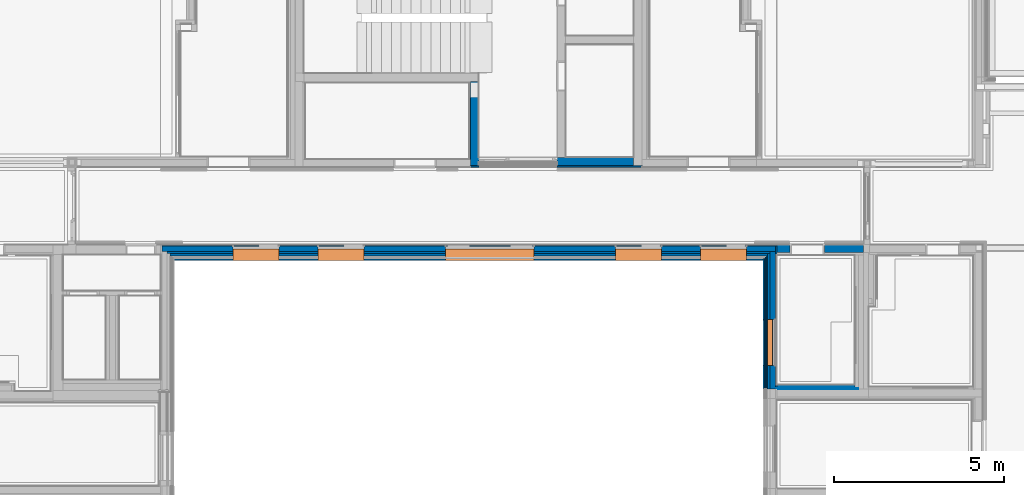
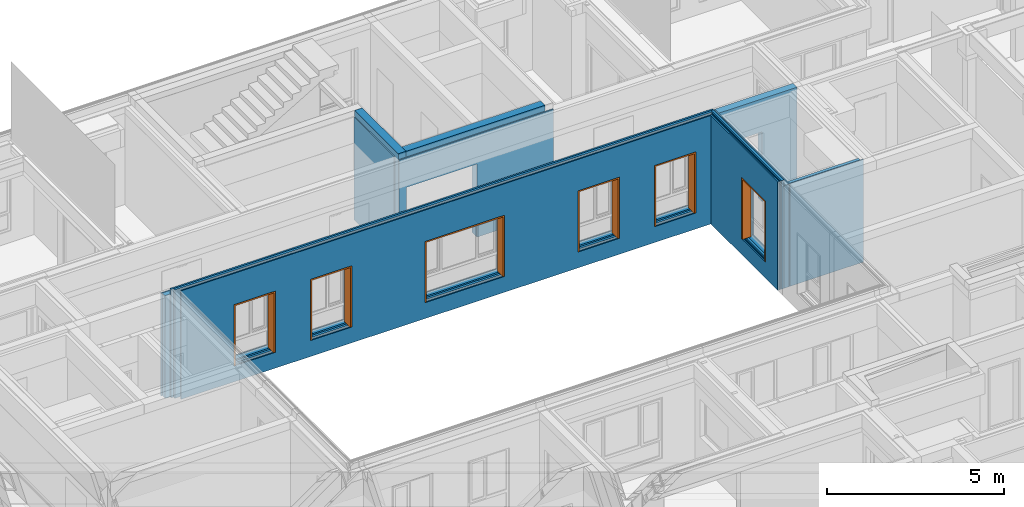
# One storey, part 33 of 222: 19 walls, 6 proxies, 37 openings.
"""IFC4 building model written with IfcOpenShell, lengths in metres."""

from ifc_helpers import new_model, entity, si_unit, converted_unit, derived_unit, frame, frame_2d, origin, origin_with_axes, place, context, subcontext, project, spatial, polyline, rectangle, outline, extrude, faceted_brep, material, element, fill, save


model = new_model("IFC4")

# Units and contexts
model_context = context("Model", 3, precision=1e-05, world=origin())
body_context = subcontext(model_context, "Body", "Model", "MODEL_VIEW")
ifc_project = project(units=[si_unit("LENGTHUNIT", "METRE"), si_unit("AREAUNIT", "SQUARE_METRE"), si_unit("VOLUMEUNIT", "CUBIC_METRE"), si_unit("MASSUNIT", "GRAM", prefix="KILO"), converted_unit("PLANEANGLEUNIT", "DEGREE", entity("IfcPlaneAngleMeasure", 0.0174532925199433), si_unit("PLANEANGLEUNIT", "RADIAN"), dimensions=[0, 0, 0, 0, 0, 0, 0]), derived_unit("THERMALTRANSMITTANCEUNIT", [(si_unit("POWERUNIT", "WATT"), 1), (si_unit("THERMODYNAMICTEMPERATUREUNIT", "KELVIN"), -1), (si_unit("LENGTHUNIT", "METRE"), -2)]), derived_unit("VOLUMETRICFLOWRATEUNIT", [(si_unit("LENGTHUNIT", "METRE"), 3), (converted_unit("TIMEUNIT", "hour", entity("IfcTimeMeasure", 3600.0), si_unit("TIMEUNIT", "SECOND"), dimensions=[0, 0, 1, 0, 0, 0, 0]), -1), (si_unit("LENGTHUNIT", "METRE"), -1)])], contexts=[model_context])

# Site, building, storey
site_placement = place(None, origin())
site = spatial("IfcSite", under=ifc_project, at=site_placement, Name="Psychiatrie Neubau Wunstorf", CompositionType="ELEMENT")
building_placement = place(site_placement, origin())
building = spatial("IfcBuilding", under=site, at=building_placement, Name="Neubau H2 Stationsgebäude", CompositionType="ELEMENT")
storey_placement = place(building_placement, frame((0.0, 0.0, 3.6)))
storey = spatial("IfcBuildingStorey", under=building, at=storey_placement, Name="H2 Ebene +1", CompositionType="ELEMENT", Elevation=3.6)

# Wall, opening
ifc_material_1 = material(Name="WA-LB")
wall_1_placement = place(storey_placement, frame((62.0610000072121, 16.336000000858, 0.0), z_axis=(0.0, 0.0, 1.0), x_axis=(1.72661628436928e-15, 1.0, 0.0)))
wall_1 = element("IfcWall", 1, at=wall_1_placement, inside=storey, material=ifc_material_1, context=body_context, shape_type="SweptSolid", body=[
    extrude(rectangle(XDim=4.2139980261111, YDim=0.036, at=frame_2d((2.10699901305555, 0.018), x_axis=(1.0, 0.0))), origin_with_axes(), (0.0, 0.0, 1.0), 3.55),
])
opening_1_placement = place(wall_1_placement, frame((2.0439980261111, 0.0360000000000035, 0.55), z_axis=(0.0, -1.0, 0.0), x_axis=(0.0, 0.0, 1.0)))
element("IfcOpeningElement", 2, at=opening_1_placement, cuts=wall_1, Name="Fensteröffnung", ObjectType="Opening", context=body_context, shape_type="SweptSolid", body=[
    extrude(outline(polyline([(2.115, 1.35), (2.115, 0.0), (0.0, 0.0), (0.0, 1.35), (2.115, 1.35)])), origin_with_axes(), (0.0, 0.0, 1.0), 0.036),
])

ifc_material_2 = material(Name="WA-DL")
wall_2_placement = place(storey_placement, frame((62.0250000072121, 16.336000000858, 0.0), z_axis=(0.0, 0.0, 1.0), x_axis=(1.7947610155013e-15, 1.0, 0.0)))
wall_2 = element("IfcWall", 3, at=wall_2_placement, inside=storey, material=ifc_material_2, context=body_context, shape_type="SweptSolid", body=[
    extrude(rectangle(XDim=4.05399802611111, YDim=0.16, at=frame_2d((2.02699901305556, 0.08), x_axis=(1.0, 0.0))), origin_with_axes(), (0.0, 0.0, 1.0), 3.55),
])
opening_2_placement = place(wall_2_placement, frame((2.0439980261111, 0.160000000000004, 0.55), z_axis=(1.4210854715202e-15, -1.0, 0.0), x_axis=(0.0, 0.0, 1.0)))
element("IfcOpeningElement", 4, at=opening_2_placement, cuts=wall_2, Name="Fensteröffnung", ObjectType="Opening", context=body_context, shape_type="SweptSolid", body=[
    extrude(outline(polyline([(2.115, 1.35), (2.115, 0.0), (0.0, 0.0), (0.0, 1.35), (2.115, 1.35)])), origin_with_axes(), (0.0, 0.0, 1.0), 0.16),
])

ifc_material_3 = material(Name="WA-DL")
wall_3_placement = place(storey_placement, frame((61.8650000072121, 16.336000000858, 0.0), z_axis=(0.0, 0.0, 1.0), x_axis=(1.82172288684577e-15, 1.0, 0.0)))
wall_3 = element("IfcWall", 5, at=wall_3_placement, inside=storey, material=ifc_material_3, context=body_context, shape_type="SweptSolid", body=[
    extrude(rectangle(XDim=3.99399802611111, YDim=0.08, at=frame_2d((1.99699901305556, 0.04), x_axis=(1.0, 0.0))), origin_with_axes(), (0.0, 0.0, 1.0), 3.75),
])
opening_3_placement = place(wall_3_placement, frame((2.0439980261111, 0.0800000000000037, 0.55), z_axis=(2.8421709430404e-15, -1.0, 0.0), x_axis=(0.0, 0.0, 1.0)))
element("IfcOpeningElement", 6, at=opening_3_placement, cuts=wall_3, Name="Fensteröffnung", ObjectType="Opening", context=body_context, shape_type="SweptSolid", body=[
    extrude(outline(polyline([(2.115, 1.35), (2.115, 0.0), (0.0, 0.0), (0.0, 1.35), (2.115, 1.35)])), origin_with_axes(), (0.0, 0.0, 1.0), 0.08),
])

ifc_material_4 = material(Name="WA-LB")
wall_4_placement = place(storey_placement, frame((61.7850000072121, 16.336000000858, 0.0), z_axis=(0.0, 0.0, 1.0), x_axis=(1.8589579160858e-15, 1.0, 0.0)))
wall_4 = element("IfcWall", 7, at=wall_4_placement, inside=storey, material=ifc_material_4, context=body_context, shape_type="SweptSolid", body=[
    extrude(rectangle(XDim=3.91399802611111, YDim=0.036, at=frame_2d((1.95699901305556, 0.018), x_axis=(1.0, 0.0))), origin_with_axes(), (0.0, 0.0, 1.0), 3.75),
])
opening_4_placement = place(wall_4_placement, frame((2.0439980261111, 0.0360000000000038, 0.55), z_axis=(0.0, -1.0, 0.0), x_axis=(0.0, 0.0, 1.0)))
element("IfcOpeningElement", 8, at=opening_4_placement, cuts=wall_4, Name="Fensteröffnung", ObjectType="Opening", context=body_context, shape_type="SweptSolid", body=[
    extrude(outline(polyline([(2.115, 1.35), (2.115, 0.0), (0.0, 0.0), (0.0, 1.35), (2.115, 1.35)])), origin_with_axes(), (0.0, 0.0, 1.0), 0.036),
])

ifc_material_5 = material(Name="WA-KL")
wall_5_placement = place(storey_placement, frame((61.7490000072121, 16.336000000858, 0.0), z_axis=(0.0, 0.0, 1.0), x_axis=(1.8762148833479e-15, 1.0, 0.0)))
wall_5 = element("IfcWall", 9, at=wall_5_placement, inside=storey, material=ifc_material_5, context=body_context, shape_type="SweptSolid", body=[
    extrude(rectangle(XDim=3.87799802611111, YDim=0.024, at=frame_2d((1.93899901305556, 0.012), x_axis=(1.0, 0.0))), origin_with_axes(), (0.0, 0.0, 1.0), 3.75),
])
opening_5_placement = place(wall_5_placement, frame((2.0439980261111, 0.0240000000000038, 0.55), z_axis=(0.0, -1.0, 0.0), x_axis=(0.0, 0.0, 1.0)))
element("IfcOpeningElement", 10, at=opening_5_placement, cuts=wall_5, Name="Fensteröffnung", ObjectType="Opening", context=body_context, shape_type="SweptSolid", body=[
    extrude(outline(polyline([(2.115, 1.35), (2.115, 0.0), (0.0, 0.0), (0.0, 1.35), (2.115, 1.35)])), origin_with_axes(), (0.0, 0.0, 1.0), 0.024),
])

ifc_material_6 = material(Name="WA-TL")
wall_6_placement = place(storey_placement, frame((61.7250000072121, 16.336000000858, 0.0), z_axis=(0.0, 0.0, 1.0), x_axis=(1.88789863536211e-15, 1.0, 0.0)))
wall_6 = element("IfcWall", 11, at=wall_6_placement, inside=storey, material=ifc_material_6, context=body_context, shape_type="SweptSolid", body=[
    extrude(rectangle(XDim=3.85399802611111, YDim=0.024, at=frame_2d((1.92699901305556, 0.012), x_axis=(1.0, 0.0))), origin_with_axes(), (0.0, 0.0, 1.0), 3.75),
])
opening_6_placement = place(wall_6_placement, frame((2.0439980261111, 0.0240000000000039, 0.55), z_axis=(0.0, -1.0, 0.0), x_axis=(0.0, 0.0, 1.0)))
element("IfcOpeningElement", 12, at=opening_6_placement, cuts=wall_6, Name="Fensteröffnung", ObjectType="Opening", context=body_context, shape_type="SweptSolid", body=[
    extrude(outline(polyline([(2.115, 1.35), (2.115, 0.0), (0.0, 0.0), (0.0, 1.35), (2.115, 1.35)])), origin_with_axes(), (0.0, 0.0, 1.0), 0.024),
])

# Wall, opening, proxy
ifc_material_7 = material(Name="WA-HS")
wall_7_placement = place(storey_placement, frame((61.7010000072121, 16.336000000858, 0.0), z_axis=(0.0, 0.0, 1.0), x_axis=(1.89972881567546e-15, 1.0, 0.0)))
wall_7 = element("IfcWall", 13, at=wall_7_placement, inside=storey, material=ifc_material_7, context=body_context, shape_type="SweptSolid", body=[
    extrude(rectangle(XDim=3.82999802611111, YDim=0.042, at=frame_2d((1.91499901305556, 0.021), x_axis=(1.0, 0.0))), origin_with_axes(), (0.0, 0.0, 1.0), 3.75),
])
opening_7_placement = place(wall_7_placement, frame((2.0439980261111, 0.0420000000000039, 0.55), z_axis=(0.0, -1.0, 0.0), x_axis=(0.0, 0.0, 1.0)))
opening_7 = element("IfcOpeningElement", 14, at=opening_7_placement, cuts=wall_7, Name="Fensteröffnung", ObjectType="Opening", context=body_context, shape_type="SweptSolid", body=[
    extrude(outline(polyline([(2.115, 1.35), (2.115, 0.0), (0.0, 0.0), (0.0, 1.35), (2.115, 1.35)])), origin_with_axes(), (0.0, 0.0, 1.0), 0.042),
])
ifc_material_8 = material(Name="WA-HS")
proxy_1_placement = place(opening_7_placement, frame((0.0, 1.35, 0.0)))
proxy_1 = element("IfcBuildingElementProxy", 15, at=proxy_1_placement, inside=storey, material=ifc_material_8, context=body_context, shape_type="Brep", body=[
    faceted_brep([(0.0, 0.0, 0.275), (0.0, 0.0, 0.0), (2.115, 0.0, 0.0), (2.115, 0.0, 0.275), (2.115, -1.35, 0.0), (2.115, -1.35, 0.274999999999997), (0.0, -0.05, 0.0), (0.0, -0.0500000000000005, 0.275), (0.0, -1.35, 0.274999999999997), (0.0, -1.3, 0.274999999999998), (2.065, -1.3, 0.274999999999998), (2.065, -0.0500000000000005, 0.275), (2.065, -0.05, 0.0), (2.065, -1.3, 0.0), (0.0, -1.3, 0.0), (0.0, -1.35, 0.0)], [[[0, 1, 2, 3]], [[2, 4, 5, 3]], [[6, 1, 0, 7]], [[7, 0, 3, 5, 8, 9, 10, 11]], [[1, 6, 12, 13, 14, 15, 4, 2]], [[6, 7, 11, 12]], [[15, 8, 5, 4]], [[15, 14, 9, 8]], [[9, 14, 13, 10]], [[10, 13, 12, 11]]], orient=[[False], [False], [False], [False], [False], [False], [False], [False], [False], [False]]),
])
fill(opening_7, proxy_1)

# Wall, openings
ifc_material_9 = material(Name="WA-LB")
wall_8_placement = place(storey_placement, frame((62.0610000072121, 20.5859980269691, 0.0), z_axis=(0.0, 0.0, 1.0), x_axis=(-1.0, 0.0, 0.0)))
wall_8 = element("IfcWall", 16, at=wall_8_placement, inside=storey, material=ifc_material_9, context=body_context, shape_type="SweptSolid", body=[
    extrude(rectangle(XDim=18.1220000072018, YDim=0.0359999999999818, at=frame_2d((9.06100000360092, 0.0179999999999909), x_axis=(1.0, 0.0))), origin_with_axes(), (0.0, 0.0, 1.0), 3.55),
])
opening_8_placement = place(wall_8_placement, frame((15.9884000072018, 0.0359999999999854, 0.55), z_axis=(0.0, -1.0, 0.0), x_axis=(0.0, 0.0, 1.0)))
element("IfcOpeningElement", 17, at=opening_8_placement, cuts=wall_8, Name="Fensteröffnung", ObjectType="Opening", context=body_context, shape_type="SweptSolid", body=[
    extrude(outline(polyline([(2.115, 1.35), (2.115, 0.0), (0.0, 0.0), (0.0, 1.35), (2.115, 1.35)])), origin_with_axes(), (0.0, 0.0, 1.0), 0.0359999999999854),
])
opening_9_placement = place(wall_8_placement, frame((13.4884000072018, 0.0359999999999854, 0.55), z_axis=(0.0, -1.0, 0.0), x_axis=(0.0, 0.0, 1.0)))
element("IfcOpeningElement", 18, at=opening_9_placement, cuts=wall_8, Name="Fensteröffnung", ObjectType="Opening", context=body_context, shape_type="SweptSolid", body=[
    extrude(outline(polyline([(2.115, 1.35), (2.115, 0.0), (0.0, 0.0), (0.0, 1.35), (2.115, 1.35)])), origin_with_axes(), (0.0, 0.0, 1.0), 0.0359999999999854),
])
opening_10_placement = place(wall_8_placement, frame((9.73840000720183, 0.0359999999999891, 0.55), z_axis=(0.0, -1.0, 0.0), x_axis=(0.0, 0.0, 1.0)))
element("IfcOpeningElement", 19, at=opening_10_placement, cuts=wall_8, Name="Fensteröffnung", ObjectType="Opening", context=body_context, shape_type="SweptSolid", body=[
    extrude(outline(polyline([(2.115, 2.6), (2.115, 0.0), (0.0, 0.0), (0.0, 2.6), (2.115, 2.6)])), origin_with_axes(), (0.0, 0.0, 1.0), 0.0359999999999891),
])
opening_11_placement = place(wall_8_placement, frame((4.73840000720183, 0.0359999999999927, 0.55), z_axis=(0.0, -1.0, 0.0), x_axis=(0.0, 0.0, 1.0)))
element("IfcOpeningElement", 20, at=opening_11_placement, cuts=wall_8, Name="Fensteröffnung", ObjectType="Opening", context=body_context, shape_type="SweptSolid", body=[
    extrude(outline(polyline([(2.115, 1.35), (2.115, 0.0), (0.0, 0.0), (0.0, 1.35), (2.115, 1.35)])), origin_with_axes(), (0.0, 0.0, 1.0), 0.0359999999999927),
])
opening_12_placement = place(wall_8_placement, frame((2.23840000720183, 0.0359999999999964, 0.55), z_axis=(0.0, -1.0, 0.0), x_axis=(0.0, 0.0, 1.0)))
element("IfcOpeningElement", 21, at=opening_12_placement, cuts=wall_8, Name="Fensteröffnung", ObjectType="Opening", context=body_context, shape_type="SweptSolid", body=[
    extrude(outline(polyline([(2.115, 1.35), (2.115, 0.0), (0.0, 0.0), (0.0, 1.35), (2.115, 1.35)])), origin_with_axes(), (0.0, 0.0, 1.0), 0.0359999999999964),
])

ifc_material_10 = material(Name="WA-DL")
wall_9_placement = place(storey_placement, frame((62.0250000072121, 20.5499980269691, 0.0), z_axis=(0.0, 0.0, 1.0), x_axis=(-1.0, 8.06200289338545e-16, 0.0)))
wall_9 = element("IfcWall", 22, at=wall_9_placement, inside=storey, material=ifc_material_10, context=body_context, shape_type="SweptSolid", body=[
    extrude(rectangle(XDim=18.0500000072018, YDim=0.16, at=frame_2d((9.02500000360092, 0.08), x_axis=(1.0, 0.0))), origin_with_axes(), (0.0, 0.0, 1.0), 3.55),
])
opening_13_placement = place(wall_9_placement, frame((15.9524000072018, 0.159999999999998, 0.55), z_axis=(0.0, -1.0, 0.0), x_axis=(0.0, 0.0, 1.0)))
element("IfcOpeningElement", 23, at=opening_13_placement, cuts=wall_9, Name="Fensteröffnung", ObjectType="Opening", context=body_context, shape_type="SweptSolid", body=[
    extrude(outline(polyline([(2.115, 1.35), (2.115, 0.0), (0.0, 0.0), (0.0, 1.35), (2.115, 1.35)])), origin_with_axes(), (0.0, 0.0, 1.0), 0.159999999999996),
])
opening_14_placement = place(wall_9_placement, frame((13.4524000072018, 0.159999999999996, 0.55), z_axis=(0.0, -1.0, 0.0), x_axis=(0.0, 0.0, 1.0)))
element("IfcOpeningElement", 24, at=opening_14_placement, cuts=wall_9, Name="Fensteröffnung", ObjectType="Opening", context=body_context, shape_type="SweptSolid", body=[
    extrude(outline(polyline([(2.115, 1.35), (2.115, 0.0), (0.0, 0.0), (0.0, 1.35), (2.115, 1.35)])), origin_with_axes(), (0.0, 0.0, 1.0), 0.159999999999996),
])
opening_15_placement = place(wall_9_placement, frame((4.70240000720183, 0.159999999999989, 0.55), z_axis=(0.0, -1.0, 0.0), x_axis=(0.0, 0.0, 1.0)))
element("IfcOpeningElement", 25, at=opening_15_placement, cuts=wall_9, Name="Fensteröffnung", ObjectType="Opening", context=body_context, shape_type="SweptSolid", body=[
    extrude(outline(polyline([(2.115, 1.35), (2.115, 0.0), (0.0, 0.0), (0.0, 1.35), (2.115, 1.35)])), origin_with_axes(), (0.0, 0.0, 1.0), 0.159999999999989),
])
opening_16_placement = place(wall_9_placement, frame((2.20240000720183, 0.159999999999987, 0.55), z_axis=(0.0, -1.0, 0.0), x_axis=(0.0, 0.0, 1.0)))
element("IfcOpeningElement", 26, at=opening_16_placement, cuts=wall_9, Name="Fensteröffnung", ObjectType="Opening", context=body_context, shape_type="SweptSolid", body=[
    extrude(outline(polyline([(2.115, 1.35), (2.115, 0.0), (0.0, 0.0), (0.0, 1.35), (2.115, 1.35)])), origin_with_axes(), (0.0, 0.0, 1.0), 0.159999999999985),
])
opening_17_placement = place(wall_9_placement, frame((9.70240000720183, 0.159999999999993, 0.55), z_axis=(0.0, -1.0, 0.0), x_axis=(0.0, 0.0, 1.0)))
element("IfcOpeningElement", 27, at=opening_17_placement, cuts=wall_9, Name="Fensteröffnung", ObjectType="Opening", context=body_context, shape_type="SweptSolid", body=[
    extrude(outline(polyline([(2.115, 2.6), (2.115, 0.0), (0.0, 0.0), (0.0, 2.6), (2.115, 2.6)])), origin_with_axes(), (0.0, 0.0, 1.0), 0.159999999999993),
])

ifc_material_11 = material(Name="WA-DL")
wall_10_placement = place(storey_placement, frame((61.8650000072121, 20.3899980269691, 0.0), z_axis=(0.0, 0.0, 1.0), x_axis=(-1.0, 0.0, 0.0)))
wall_10 = element("IfcWall", 28, at=wall_10_placement, inside=storey, material=ifc_material_11, context=body_context, shape_type="SweptSolid", body=[
    extrude(rectangle(XDim=17.7300000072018, YDim=0.06, at=frame_2d((8.86500000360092, 0.03), x_axis=(1.0, 0.0))), origin_with_axes(), (0.0, 0.0, 1.0), 3.75),
])
opening_18_placement = place(wall_10_placement, frame((15.7924000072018, 0.06, 0.55), z_axis=(0.0, -1.0, 0.0), x_axis=(0.0, 0.0, 1.0)))
element("IfcOpeningElement", 29, at=opening_18_placement, cuts=wall_10, Name="Fensteröffnung", ObjectType="Opening", context=body_context, shape_type="SweptSolid", body=[
    extrude(outline(polyline([(2.115, 1.35), (2.115, 0.0), (0.0, 0.0), (0.0, 1.35), (2.115, 1.35)])), origin_with_axes(), (0.0, 0.0, 1.0), 0.06),
])
opening_19_placement = place(wall_10_placement, frame((13.2924000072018, 0.06, 0.55), z_axis=(0.0, -1.0, 0.0), x_axis=(0.0, 0.0, 1.0)))
element("IfcOpeningElement", 30, at=opening_19_placement, cuts=wall_10, Name="Fensteröffnung", ObjectType="Opening", context=body_context, shape_type="SweptSolid", body=[
    extrude(outline(polyline([(2.115, 1.35), (2.115, 0.0), (0.0, 0.0), (0.0, 1.35), (2.115, 1.35)])), origin_with_axes(), (0.0, 0.0, 1.0), 0.06),
])
opening_20_placement = place(wall_10_placement, frame((4.54240000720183, 0.06, 0.55), z_axis=(0.0, -1.0, 0.0), x_axis=(0.0, 0.0, 1.0)))
element("IfcOpeningElement", 31, at=opening_20_placement, cuts=wall_10, Name="Fensteröffnung", ObjectType="Opening", context=body_context, shape_type="SweptSolid", body=[
    extrude(outline(polyline([(2.115, 1.35), (2.115, 0.0), (0.0, 0.0), (0.0, 1.35), (2.115, 1.35)])), origin_with_axes(), (0.0, 0.0, 1.0), 0.06),
])
opening_21_placement = place(wall_10_placement, frame((2.04240000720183, 0.06, 0.55), z_axis=(0.0, -1.0, 0.0), x_axis=(0.0, 0.0, 1.0)))
element("IfcOpeningElement", 32, at=opening_21_placement, cuts=wall_10, Name="Fensteröffnung", ObjectType="Opening", context=body_context, shape_type="SweptSolid", body=[
    extrude(outline(polyline([(2.115, 1.35), (2.115, 0.0), (0.0, 0.0), (0.0, 1.35), (2.115, 1.35)])), origin_with_axes(), (0.0, 0.0, 1.0), 0.06),
])
opening_22_placement = place(wall_10_placement, frame((9.54240000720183, 0.06, 0.55), z_axis=(0.0, -1.0, 0.0), x_axis=(0.0, 0.0, 1.0)))
element("IfcOpeningElement", 33, at=opening_22_placement, cuts=wall_10, Name="Fensteröffnung", ObjectType="Opening", context=body_context, shape_type="SweptSolid", body=[
    extrude(outline(polyline([(2.115, 2.6), (2.115, 0.0), (0.0, 0.0), (0.0, 2.6), (2.115, 2.6)])), origin_with_axes(), (0.0, 0.0, 1.0), 0.06),
])

ifc_material_12 = material(Name="WA-DL")
wall_11_placement = place(storey_placement, frame((61.7850000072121, 20.3299980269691, 0.0), z_axis=(0.0, 0.0, 1.0), x_axis=(-1.0, 0.0, 0.0)))
wall_11 = element("IfcWall", 34, at=wall_11_placement, inside=storey, material=ifc_material_12, context=body_context, shape_type="SweptSolid", body=[
    extrude(rectangle(XDim=17.5700000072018, YDim=0.08, at=frame_2d((8.78500000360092, 0.04), x_axis=(1.0, 0.0))), origin_with_axes(), (0.0, 0.0, 1.0), 3.75),
])
opening_23_placement = place(wall_11_placement, frame((15.7124000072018, 0.08, 0.55), z_axis=(0.0, -1.0, 0.0), x_axis=(0.0, 0.0, 1.0)))
element("IfcOpeningElement", 35, at=opening_23_placement, cuts=wall_11, Name="Fensteröffnung", ObjectType="Opening", context=body_context, shape_type="SweptSolid", body=[
    extrude(outline(polyline([(2.115, 1.35), (2.115, 0.0), (0.0, 0.0), (0.0, 1.35), (2.115, 1.35)])), origin_with_axes(), (0.0, 0.0, 1.0), 0.08),
])
opening_24_placement = place(wall_11_placement, frame((13.2124000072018, 0.08, 0.55), z_axis=(0.0, -1.0, 0.0), x_axis=(0.0, 0.0, 1.0)))
element("IfcOpeningElement", 36, at=opening_24_placement, cuts=wall_11, Name="Fensteröffnung", ObjectType="Opening", context=body_context, shape_type="SweptSolid", body=[
    extrude(outline(polyline([(2.115, 1.35), (2.115, 0.0), (0.0, 0.0), (0.0, 1.35), (2.115, 1.35)])), origin_with_axes(), (0.0, 0.0, 1.0), 0.08),
])
opening_25_placement = place(wall_11_placement, frame((4.46240000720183, 0.08, 0.55), z_axis=(0.0, -1.0, 0.0), x_axis=(0.0, 0.0, 1.0)))
element("IfcOpeningElement", 37, at=opening_25_placement, cuts=wall_11, Name="Fensteröffnung", ObjectType="Opening", context=body_context, shape_type="SweptSolid", body=[
    extrude(outline(polyline([(2.115, 1.35), (2.115, 0.0), (0.0, 0.0), (0.0, 1.35), (2.115, 1.35)])), origin_with_axes(), (0.0, 0.0, 1.0), 0.08),
])
opening_26_placement = place(wall_11_placement, frame((1.96240000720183, 0.08, 0.55), z_axis=(0.0, -1.0, 0.0), x_axis=(0.0, 0.0, 1.0)))
element("IfcOpeningElement", 38, at=opening_26_placement, cuts=wall_11, Name="Fensteröffnung", ObjectType="Opening", context=body_context, shape_type="SweptSolid", body=[
    extrude(outline(polyline([(2.115, 1.35), (2.115, 0.0), (0.0, 0.0), (0.0, 1.35), (2.115, 1.35)])), origin_with_axes(), (0.0, 0.0, 1.0), 0.08),
])
opening_27_placement = place(wall_11_placement, frame((9.46240000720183, 0.08, 0.55), z_axis=(0.0, -1.0, 0.0), x_axis=(0.0, 0.0, 1.0)))
element("IfcOpeningElement", 39, at=opening_27_placement, cuts=wall_11, Name="Fensteröffnung", ObjectType="Opening", context=body_context, shape_type="SweptSolid", body=[
    extrude(outline(polyline([(2.115, 2.6), (2.115, 0.0), (0.0, 0.0), (0.0, 2.6), (2.115, 2.6)])), origin_with_axes(), (0.0, 0.0, 1.0), 0.08),
])

# Wall, openings, proxies
ifc_material_13 = material(Name="WA-HS")
wall_12_placement = place(storey_placement, frame((61.6590000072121, 20.1659980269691, 0.0), z_axis=(0.0, 0.0, 1.0), x_axis=(-1.0, 0.0, 0.0)))
wall_12 = element("IfcWall", 40, at=wall_12_placement, inside=storey, material=ifc_material_13, context=body_context, shape_type="SweptSolid", body=[
    extrude(rectangle(XDim=17.3180000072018, YDim=0.042, at=frame_2d((8.65900000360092, 0.021), x_axis=(1.0, 0.0))), origin_with_axes(), (0.0, 0.0, 1.0), 3.75),
])
opening_28_placement = place(wall_12_placement, frame((15.5864000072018, 0.042, 0.55), z_axis=(0.0, -1.0, 0.0), x_axis=(0.0, 0.0, 1.0)))
opening_28 = element("IfcOpeningElement", 41, at=opening_28_placement, cuts=wall_12, Name="Fensteröffnung", ObjectType="Opening", context=body_context, shape_type="SweptSolid", body=[
    extrude(outline(polyline([(2.115, 1.35), (2.115, 0.0), (0.0, 0.0), (0.0, 1.35), (2.115, 1.35)])), origin_with_axes(), (0.0, 0.0, 1.0), 0.042),
])
opening_29_placement = place(wall_12_placement, frame((13.0864000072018, 0.042, 0.55), z_axis=(0.0, -1.0, 0.0), x_axis=(0.0, 0.0, 1.0)))
opening_29 = element("IfcOpeningElement", 42, at=opening_29_placement, cuts=wall_12, Name="Fensteröffnung", ObjectType="Opening", context=body_context, shape_type="SweptSolid", body=[
    extrude(outline(polyline([(2.115, 1.35), (2.115, 0.0), (0.0, 0.0), (0.0, 1.35), (2.115, 1.35)])), origin_with_axes(), (0.0, 0.0, 1.0), 0.042),
])
opening_30_placement = place(wall_12_placement, frame((4.33640000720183, 0.042, 0.55), z_axis=(0.0, -1.0, 0.0), x_axis=(0.0, 0.0, 1.0)))
opening_30 = element("IfcOpeningElement", 43, at=opening_30_placement, cuts=wall_12, Name="Fensteröffnung", ObjectType="Opening", context=body_context, shape_type="SweptSolid", body=[
    extrude(outline(polyline([(2.115, 1.35), (2.115, 0.0), (0.0, 0.0), (0.0, 1.35), (2.115, 1.35)])), origin_with_axes(), (0.0, 0.0, 1.0), 0.042),
])
opening_31_placement = place(wall_12_placement, frame((1.83640000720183, 0.042, 0.55), z_axis=(0.0, -1.0, 0.0), x_axis=(0.0, 0.0, 1.0)))
opening_31 = element("IfcOpeningElement", 44, at=opening_31_placement, cuts=wall_12, Name="Fensteröffnung", ObjectType="Opening", context=body_context, shape_type="SweptSolid", body=[
    extrude(outline(polyline([(2.115, 1.35), (2.115, 0.0), (0.0, 0.0), (0.0, 1.35), (2.115, 1.35)])), origin_with_axes(), (0.0, 0.0, 1.0), 0.042),
])
opening_32_placement = place(wall_12_placement, frame((9.33640000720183, 0.042, 0.55), z_axis=(0.0, -1.0, 0.0), x_axis=(0.0, 0.0, 1.0)))
opening_32 = element("IfcOpeningElement", 45, at=opening_32_placement, cuts=wall_12, Name="Fensteröffnung", ObjectType="Opening", context=body_context, shape_type="SweptSolid", body=[
    extrude(outline(polyline([(2.115, 2.6), (2.115, 0.0), (0.0, 0.0), (0.0, 2.6), (2.115, 2.6)])), origin_with_axes(), (0.0, 0.0, 1.0), 0.042),
])
ifc_material_14 = material(Name="WA-HS")
proxy_2_placement = place(opening_28_placement, origin())
proxy_2 = element("IfcBuildingElementProxy", 46, at=proxy_2_placement, inside=storey, material=ifc_material_14, context=body_context, shape_type="Brep", body=[
    faceted_brep([(0.0, 1.35, 0.335), (0.0, 1.35, 0.0), (2.115, 1.35, 0.0), (2.115, 1.35, 0.335), (2.115, 0.0, 0.0), (2.115, 0.0, 0.335), (0.0, 1.3, 0.0), (0.0, 1.3, 0.335), (0.0, 0.0, 0.335), (0.0, 0.05, 0.335), (2.065, 0.05, 0.335), (2.065, 1.3, 0.335), (2.065, 1.3, 0.0), (2.065, 0.05, 0.0), (0.0, 0.05, 0.0), (0.0, 0.0, 0.0)], [[[0, 1, 2, 3]], [[2, 4, 5, 3]], [[6, 1, 0, 7]], [[7, 0, 3, 5, 8, 9, 10, 11]], [[1, 6, 12, 13, 14, 15, 4, 2]], [[6, 7, 11, 12]], [[15, 8, 5, 4]], [[15, 14, 9, 8]], [[9, 14, 13, 10]], [[10, 13, 12, 11]]], orient=[[False], [False], [False], [False], [False], [False], [False], [False], [False], [False]]),
])
fill(opening_28, proxy_2)
ifc_material_15 = material(Name="WA-HS")
proxy_3_placement = place(opening_29_placement, origin())
proxy_3 = element("IfcBuildingElementProxy", 47, at=proxy_3_placement, inside=storey, material=ifc_material_15, context=body_context, shape_type="Brep", body=[
    faceted_brep([(0.0, 0.0, 0.0), (0.0, 0.0, 0.335), (2.115, 0.0, 0.335), (2.115, 0.0, 0.0), (0.0, 0.05, 0.335), (0.0, 0.05, 0.0), (2.065, 0.05, 0.0), (2.065, 0.05, 0.335), (2.115, 1.35, 0.335), (2.115, 1.35, 0.0), (0.0, 1.35, 0.0), (0.0, 1.3, 0.0), (2.065, 1.3, 0.0), (2.065, 1.3, 0.335), (0.0, 1.3, 0.335), (0.0, 1.35, 0.335)], [[[0, 1, 2, 3]], [[4, 5, 6, 7]], [[0, 5, 4, 1]], [[3, 2, 8, 9]], [[6, 5, 0, 3, 9, 10, 11, 12]], [[13, 14, 15, 8, 2, 1, 4, 7]], [[7, 6, 12, 13]], [[11, 14, 13, 12]], [[15, 10, 9, 8]], [[11, 10, 15, 14]]], orient=[[False], [False], [False], [False], [False], [False], [False], [False], [False], [False]]),
])
fill(opening_29, proxy_3)
ifc_material_16 = material(Name="WA-HS")
proxy_4_placement = place(opening_30_placement, origin())
proxy_4 = element("IfcBuildingElementProxy", 48, at=proxy_4_placement, inside=storey, material=ifc_material_16, context=body_context, shape_type="Brep", body=[
    faceted_brep([(0.0, 0.0, 0.0), (0.0, 0.0, 0.335), (2.115, 0.0, 0.335), (2.115, 0.0, 0.0), (0.0, 0.05, 0.335), (0.0, 0.05, 0.0), (2.065, 0.05, 0.0), (2.065, 0.05, 0.335), (2.115, 1.35, 0.335), (2.115, 1.35, 0.0), (0.0, 1.35, 0.0), (0.0, 1.3, 0.0), (2.065, 1.3, 0.0), (2.065, 1.3, 0.335), (0.0, 1.3, 0.335), (0.0, 1.35, 0.335)], [[[0, 1, 2, 3]], [[4, 5, 6, 7]], [[0, 5, 4, 1]], [[3, 2, 8, 9]], [[6, 5, 0, 3, 9, 10, 11, 12]], [[13, 14, 15, 8, 2, 1, 4, 7]], [[7, 6, 12, 13]], [[11, 14, 13, 12]], [[15, 10, 9, 8]], [[11, 10, 15, 14]]], orient=[[False], [False], [False], [False], [False], [False], [False], [False], [False], [False]]),
])
fill(opening_30, proxy_4)
ifc_material_17 = material(Name="WA-HS")
proxy_5_placement = place(opening_31_placement, origin())
proxy_5 = element("IfcBuildingElementProxy", 49, at=proxy_5_placement, inside=storey, material=ifc_material_17, context=body_context, shape_type="Brep", body=[
    faceted_brep([(0.0, 0.0, 0.0), (0.0, 0.0, 0.335), (2.115, 0.0, 0.335), (2.115, 0.0, 0.0), (0.0, 0.05, 0.335), (0.0, 0.05, 0.0), (2.065, 0.05, 0.0), (2.065, 0.05, 0.335), (2.115, 1.35, 0.335), (2.115, 1.35, 0.0), (0.0, 1.35, 0.0), (0.0, 1.3, 0.0), (2.065, 1.3, 0.0), (2.065, 1.3, 0.335), (0.0, 1.3, 0.335), (0.0, 1.35, 0.335)], [[[0, 1, 2, 3]], [[4, 5, 6, 7]], [[0, 5, 4, 1]], [[3, 2, 8, 9]], [[6, 5, 0, 3, 9, 10, 11, 12]], [[13, 14, 15, 8, 2, 1, 4, 7]], [[7, 6, 12, 13]], [[11, 14, 13, 12]], [[15, 10, 9, 8]], [[11, 10, 15, 14]]], orient=[[False], [False], [False], [False], [False], [False], [False], [False], [False], [False]]),
])
fill(opening_31, proxy_5)
ifc_material_18 = material(Name="WA-HS")
proxy_6_placement = place(opening_32_placement, origin())
proxy_6 = element("IfcBuildingElementProxy", 50, at=proxy_6_placement, inside=storey, material=ifc_material_18, context=body_context, shape_type="Brep", body=[
    faceted_brep([(0.0, 0.0, 0.0), (0.0, 0.0, 0.335), (2.115, 0.0, 0.335), (2.115, 0.0, 0.0), (0.0, 0.05, 0.335), (0.0, 0.05, 0.0), (2.065, 0.05, 0.0), (2.065, 0.05, 0.335), (2.115, 2.6, 0.335), (2.115, 2.6, 0.0), (0.0, 2.6, 0.0), (0.0, 2.55, 0.0), (2.065, 2.55, 0.0), (2.065, 2.55, 0.335), (0.0, 2.55, 0.335), (0.0, 2.6, 0.335)], [[[0, 1, 2, 3]], [[4, 5, 6, 7]], [[0, 5, 4, 1]], [[3, 2, 8, 9]], [[6, 5, 0, 3, 9, 10, 11, 12]], [[13, 14, 15, 8, 2, 1, 4, 7]], [[7, 6, 12, 13]], [[11, 14, 13, 12]], [[15, 10, 9, 8]], [[11, 10, 15, 14]]], orient=[[False], [False], [False], [False], [False], [False], [False], [False], [False], [False]]),
])
fill(opening_32, proxy_6)

# Wall, opening
ifc_material_19 = material(Name="WI-STB")
wall_13_placement = place(storey_placement, frame((57.85, 23.1549914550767, 0.0), z_axis=(0.0, 0.0, 1.0), x_axis=(-1.0, 0.0, 0.0)))
wall_13 = element("IfcWall", 51, at=wall_13_placement, inside=storey, material=ifc_material_19, context=body_context, shape_type="SweptSolid", body=[
    extrude(rectangle(XDim=4.55000000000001, YDim=0.25, at=frame_2d((2.275, 0.125), x_axis=(1.0, 0.0))), origin_with_axes(), (0.0, 0.0, 1.0), 3.75),
])
opening_33_placement = place(wall_13_placement, frame((4.55000000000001, 0.25, 0.0), z_axis=(0.0, -1.0, 0.0), x_axis=(0.0, 0.0, 1.0)))
element("IfcOpeningElement", 52, at=opening_33_placement, cuts=wall_13, Name="Türöffnung", ObjectType="Opening", context=body_context, shape_type="SweptSolid", body=[
    extrude(outline(polyline([(2.53, 2.2999951), (2.53, 0.0), (0.0, 0.0), (0.0, 2.2999951), (2.53, 2.2999951)])), origin_with_axes(), (0.0, 0.0, 1.0), 0.25),
])

ifc_material_20 = material(Name="WI-LB")
wall_14_placement = place(storey_placement, frame((58.1, 22.9049914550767, 0.0), z_axis=(0.0, 0.0, 1.0), x_axis=(-1.0, 0.0, 0.0)))
wall_14 = element("IfcWall", 53, at=wall_14_placement, inside=storey, material=ifc_material_20, context=body_context, shape_type="SweptSolid", body=[
    extrude(rectangle(XDim=5.05000000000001, YDim=0.041, at=frame_2d((2.525, 0.0205), x_axis=(1.0, 0.0))), origin_with_axes(), (0.0, 0.0, 1.0), 3.55),
])
opening_34_placement = place(wall_14_placement, frame((4.80000000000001, 0.041, 0.0), z_axis=(0.0, -1.0, 0.0), x_axis=(0.0, 0.0, 1.0)))
element("IfcOpeningElement", 54, at=opening_34_placement, cuts=wall_14, Name="Türöffnung", ObjectType="Opening", context=body_context, shape_type="SweptSolid", body=[
    extrude(outline(polyline([(2.53, 2.2999951), (2.53, 0.0), (0.0, 0.0), (0.0, 2.2999951), (2.53, 2.2999951)])), origin_with_axes(), (0.0, 0.0, 1.0), 0.041),
])

# Walls
ifc_material_21 = material(Name="WI-IW")
wall_15_placement = place(storey_placement, frame((64.36, 16.461000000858, 0.0), z_axis=(0.0, 0.0, 1.0), x_axis=(-1.0, 1.58241792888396e-15, 0.0)))
element("IfcWall", 55, at=wall_15_placement, inside=storey, material=ifc_material_21, context=body_context, shape_type="SweptSolid", body=[
    extrude(rectangle(XDim=2.29899999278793, YDim=0.1, at=frame_2d((1.14949999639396, 0.05), x_axis=(1.0, 0.0))), origin_with_axes(), (0.0, 0.0, 1.0), 3.55),
])
ifc_material_22 = material(Name="Installationsraum")
wall_16_placement = place(storey_placement, frame((64.46, 16.361000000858, 0.0), z_axis=(0.0, 0.0, 1.0), x_axis=(-1.0, 1.51645636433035e-15, 0.0)))
element("IfcWall", 56, at=wall_16_placement, inside=storey, material=ifc_material_22, context=body_context, shape_type="SweptSolid", body=[
    extrude(rectangle(XDim=2.39899999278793, YDim=0.025, at=frame_2d((1.19949999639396, 0.0125), x_axis=(1.0, 0.0))), origin_with_axes(), (0.0, 0.0, 1.0), 3.55),
])

# Wall, opening
ifc_material_23 = material(Name="WI-HW 60")
wall_17_placement = place(storey_placement, frame((64.61, 20.5859981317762, 0.0), z_axis=(0.0, 0.0, 1.0), x_axis=(-1.0, 0.0, 0.0)))
wall_17 = element("IfcWall", 57, at=wall_17_placement, inside=storey, material=ifc_material_23, context=body_context, shape_type="SweptSolid", body=[
    extrude(rectangle(XDim=2.54899999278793, YDim=0.231999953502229, at=frame_2d((1.27449999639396, 0.115999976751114), x_axis=(1.0, 0.0))), origin_with_axes(), (0.0, 0.0, 1.0), 3.55),
])
opening_35_placement = place(wall_17_placement, frame((1.14999998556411, 0.0, 0.0), z_axis=(0.0, 1.0, 0.0), x_axis=(0.0, 0.0, 1.0)))
element("IfcOpeningElement", 58, at=opening_35_placement, cuts=wall_17, Name="Türöffnung", ObjectType="Opening", context=body_context, shape_type="SweptSolid", body=[
    extrude(outline(polyline([(2.41, 1.01), (2.41, 0.0), (0.0, 0.0), (0.0, 1.01), (2.41, 1.01)])), origin_with_axes(), (0.0, 0.0, 1.0), 0.231999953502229),
])

# Wall, openings
ifc_material_24 = material(Name="WI-STB")
wall_18_placement = place(storey_placement, frame((53.3, 22.9049914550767, 0.0), z_axis=(0.0, 0.0, 1.0), x_axis=(0.0, 1.0, 0.0)))
wall_18 = element("IfcWall", 59, at=wall_18_placement, inside=storey, material=ifc_material_24, context=body_context, shape_type="SweptSolid", body=[
    extrude(outline(polyline([(0.0, -0.25), (2.48000853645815, -0.25), (2.48000853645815, 0.0), (0.191008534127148, 0.0), (0.0, 0.0), (0.0, -0.25)])), frame((0.0, 0.25, 0.0), z_axis=(0.0, 0.0, 1.0), x_axis=(1.0, 0.0, 0.0)), (0.0, 0.0, 1.0), 3.75),
])
opening_36_placement = place(wall_18_placement, frame((2.44055915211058, 0.249999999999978, 0.35), z_axis=(0.0, -1.0, 0.0), x_axis=(0.0, 0.0, 1.0)))
element("IfcOpeningElement", 60, at=opening_36_placement, cuts=wall_18, Name="Wandnische", ObjectType="Opening", context=body_context, shape_type="SweptSolid", body=[
    extrude(outline(polyline([(1.12, 0.42), (1.12, 0.0), (0.0, 0.0), (0.0, 0.42), (1.12, 0.42)])), origin_with_axes(), (0.0, 0.0, 1.0), 0.0299996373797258),
])
opening_37_placement = place(wall_18_placement, frame((2.44055915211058, 0.220000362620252, 0.35), z_axis=(0.0, -1.0, 0.0), x_axis=(0.0, 0.0, 1.0)))
element("IfcOpeningElement", 61, at=opening_37_placement, cuts=wall_18, Name="Wandnische", ObjectType="Opening", context=body_context, shape_type="SweptSolid", body=[
    extrude(outline(polyline([(1.12, 0.42), (1.12, 0.0), (0.0, 0.0), (0.0, 0.42), (1.12, 0.42)])), origin_with_axes(), (0.0, 0.0, 1.0), 0.220000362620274),
])

# Wall
ifc_material_25 = material(Name="WI-LB")
wall_19_placement = place(storey_placement, frame((53.05, 23.0959999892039, 0.0), z_axis=(0.0, 0.0, 1.0), x_axis=(0.0, 1.0, 0.0)))
element("IfcWall", 62, at=wall_19_placement, inside=storey, material=ifc_material_25, context=body_context, shape_type="SweptSolid", body=[
    extrude(rectangle(XDim=2.25900036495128, YDim=0.0299996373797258, at=frame_2d((1.12950018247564, 0.0149998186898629), x_axis=(1.0, 0.0))), origin_with_axes(), (0.0, 0.0, 1.0), 3.55),
])

save(model, "model.ifc")
